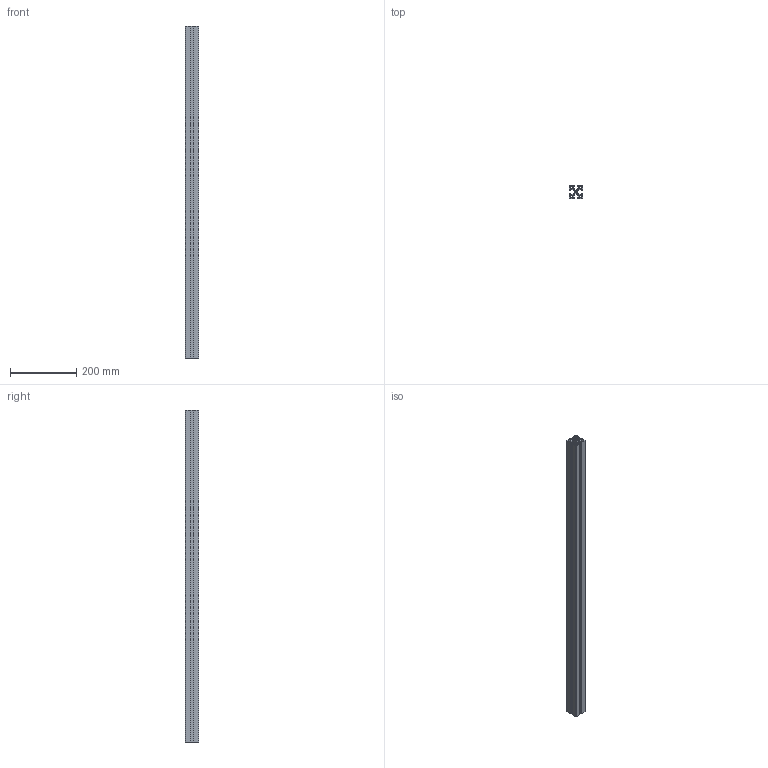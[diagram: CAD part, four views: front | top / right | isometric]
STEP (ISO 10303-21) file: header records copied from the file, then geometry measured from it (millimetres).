
FILE_DESCRIPTION(/* description */ (''),/* implementation_level */ '2;1');
FILE_NAME(/* name */ 'C:\Users\AMS43\Documents\Inventor\AMS\misumi\\X2\30D530EC30FC30E0\X0\_ipt\フレーム_stp\AFS-4040-8.ipt.stp',/* time_stamp */ '2016-10-06T11:44:02+09:00',/* author */ ('AMS43'),/* organization */ (''),/* preprocessor_version */ 'ST-DEVELOPER v15.2',/* originating_system */ 'Autodesk Inventor 2014',/* authorisation */ '');
FILE_SCHEMA (('AUTOMOTIVE_DESIGN { 1 0 10303 214 3 1 1 }'));
Length unit declared in the file: metre
Products named in the file (1): AFS-4040-8
Bounding box: 40 x 40 x 1000 mm (x, y, z)
Volume: 737362.9 mm3; surface area: 439251.7 mm2
Topology: 1 solids, 1 shells, 63 faces, 183 edges, 122 vertices
Faces by surface type: plane 54, cylinder 9
Full cylindrical faces by diameter (mm): 6.8 x1, 8 x4
Entity records: 2081 total; most frequent: CARTESIAN_POINT 364, ORIENTED_EDGE 356, DIRECTION 324, EDGE_CURVE 178, LINE 160, VECTOR 160, VERTEX_POINT 122, AXIS2_PLACEMENT_3D 82
